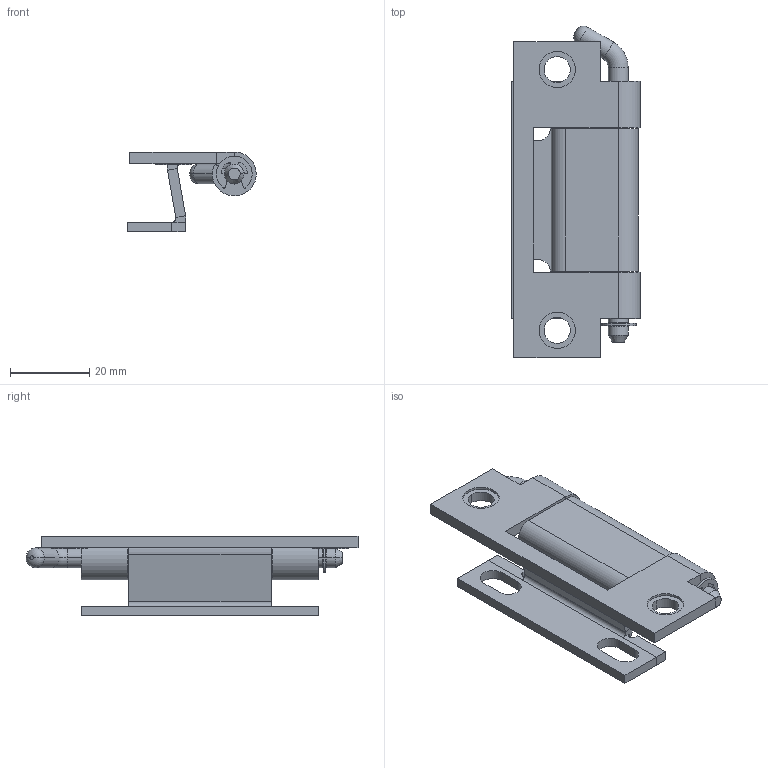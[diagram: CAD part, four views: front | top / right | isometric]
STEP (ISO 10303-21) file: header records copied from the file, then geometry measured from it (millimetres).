
FILE_DESCRIPTION (( 'STEP AP214' ), '1' );
FILE_NAME ('3.ST4-2.001.STEP', '2010-06-02T10:32:53', ( 'Techniczny' ), ( 'RST Roztocze' ), 'SwSTEP 2.0', 'SolidWorks 2010', '' );
FILE_SCHEMA (( 'AUTOMOTIVE_DESIGN' ));
Length unit declared in the file: millimetre
Products named in the file (5): 3.ST4-2.001; 3B.St4.00.00.03; 3B.St4.00.00.01; 3B.St4.00.00.02; DIN 6799 - 4
Assembly tree (4 placements, depth 2):
  3.ST4-2.001
    3B.St4.00.00.02
    3B.St4.00.00.01
    DIN 6799 - 4
    3B.St4.00.00.03
Bounding box: 32.49 x 84.03 x 20.25 mm (x, y, z)
Volume: 12914.1 mm3; surface area: 11936.1 mm2
Topology: 6 solids, 6 shells, 143 faces, 337 edges, 212 vertices
Faces by surface type: plane 76, cylinder 59, torus 4, bspline 2, cone 2
Entity records: 4457 total; most frequent: CARTESIAN_POINT 851, DIRECTION 753, ORIENTED_EDGE 674, EDGE_CURVE 337, AXIS2_PLACEMENT_3D 274, VERTEX_POINT 212, VECTOR 205, LINE 205
